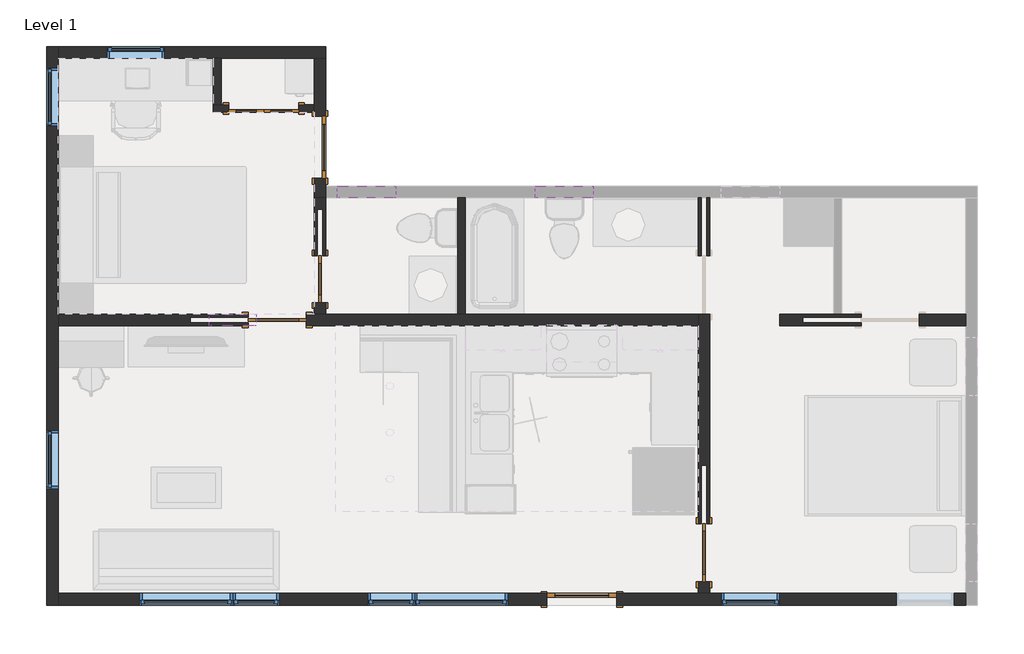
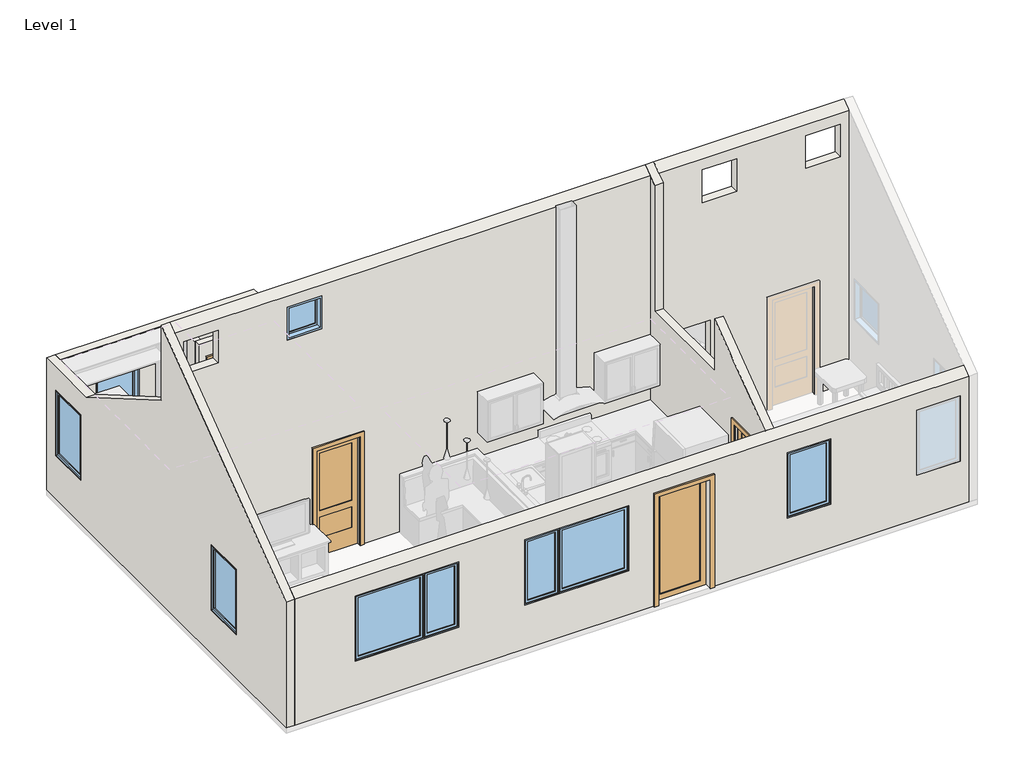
# One storey, part 1 of 2: 11 windows, 10 walls, 6 doors.
"""IFC4 building model written with IfcOpenShell, lengths in millimetres."""

from ifc_helpers import new_model, si_unit, origin, origin_with_axes, place, context, project, spatial, polyline, outline, extrude, faceted_brep, transform, mapped, element, save
from components import door_aa7f62d4, door_c1d14122, door_ddaeacfc, door_06826e7e, door_91ac008a, door_421592a3, window_ae901b66, window_c4c66847, window_aff1bc2a, window_ac770f06, window_e417f23f, window_e76804c0, window_7c4138b5, window_18dd6586

model = new_model("IFC4")

# Units and contexts
model_context = context("Model", 3, world=origin())
ifc_project = project(units=[si_unit("LENGTHUNIT", "METRE", prefix="MILLI")], contexts=[model_context])

# Site, building, storey
site = spatial("IfcSite", under=ifc_project)
building = spatial("IfcBuilding", under=site)
storey = spatial("IfcBuildingStorey", under=building, Name="Level 1", Elevation=0.0)

# Doors
placement = place(None, origin())
door_shape = door_aa7f62d4(model_context)
element("IfcDoor", 1, ObjectType="Bifold-2 Panel : 36\" x 84\"", at=placement, inside=storey, context=model_context, shape_type="MappedRepresentation", body=[
    mapped(door_shape, transform((-8028.0710901, -1528.8021683, 0.0), x_axis=(1.0, 0.0, 0.0), y_axis=(0.0, 1.0, 0.0), z_axis=(0.0, 0.0, 1.0))),
])
door_2_shape = door_c1d14122(model_context)
element("IfcDoor", 2, ObjectType="Single-Glass 1 : 32\" x 80\"", at=placement, inside=storey, context=model_context, shape_type="MappedRepresentation", body=[
    mapped(door_2_shape, transform((-7291.4710901, -2036.8021683, 0.0), x_axis=(0.0, -1.0, 0.0), y_axis=(1.0, 0.0, 0.0), z_axis=(0.0, 0.0, 1.0))),
])
door_3_shape = door_ddaeacfc(model_context)
element("IfcDoor", 3, ObjectType="Single-Glass 1 : 36\" x 80\"", at=placement, inside=storey, context=model_context, shape_type="MappedRepresentation", body=[
    mapped(door_3_shape, transform((-3862.4710901, -7955.0021683, 0.0), x_axis=(1.0, 0.0, 0.0), y_axis=(0.0, 1.0, 0.0), z_axis=(0.0, 0.0, 1.0))),
])
door_4_shape = door_06826e7e(model_context)
element("IfcDoor", 4, ObjectType="Single-Pocket Door-Two Panel : 24\" x 80\"", at=placement, inside=storey, context=model_context, shape_type="MappedRepresentation", body=[
    mapped(door_4_shape, transform((-7291.4710901, -3764.0021683, 0.0), x_axis=(0.0, -1.0, 0.0), y_axis=(1.0, 0.0, 0.0), z_axis=(0.0, 0.0, 1.0))),
])
door_5_shape = door_91ac008a(model_context)
element("IfcDoor", 5, ObjectType="Single-Pocket Door-Two Panel : 30\" x 80\"", at=placement, inside=storey, context=model_context, shape_type="MappedRepresentation", body=[
    mapped(door_5_shape, transform((-2262.2710901, -7345.4021683, 0.0), x_axis=(0.0, -1.0, 0.0), y_axis=(1.0, 0.0, 0.0), z_axis=(0.0, 0.0, 1.0))),
])
door_6_shape = door_421592a3(model_context)
element("IfcDoor", 6, ObjectType="Single-Pocket Door-Two Panel : 30\" x 80\"", at=placement, inside=storey, context=model_context, shape_type="MappedRepresentation", body=[
    mapped(door_6_shape, transform((-7850.2710901, -4297.4021683, 0.0), x_axis=(1.0, 0.0, 0.0), y_axis=(0.0, 1.0, 0.0), z_axis=(0.0, 0.0, 1.0))),
])

# Walls
element("IfcWall", 7, ObjectType="Generic - 4\"", at=placement, inside=storey, context=model_context, shape_type="SweptSolid", body=[
    extrude(outline(polyline([(-5488.0710901, -4221.2021683), (-5488.0710901, -2697.2021683), (-5386.4710901, -2697.2021683), (-5386.4710901, -4221.2021683), (-5488.0710901, -4221.2021683)])), origin_with_axes(), (0.0, 0.0, 1.0), 2438.4),
])
element("IfcWall", 8, ObjectType="Generic - 4\"", at=placement, inside=storey, context=model_context, shape_type="Brep", body=[
    faceted_brep([(-7570.8710901, -1579.6021683, 2133.6), (-7570.8710901, -1579.6021683, 0.0), (-7367.6710901, -1579.6021683, 0.0), (-7367.6710901, -1579.6021683, 2466.975), (-8688.4710901, -1579.6021683, 2466.975), (-8688.4710901, -1579.6021683, 0.0), (-8485.2710901, -1579.6021683, 0.0), (-8485.2710901, -1579.6021683, 2133.6), (-7367.6710901, -1478.0021683, 0.0), (-7570.8710901, -1478.0021683, 0.0), (-7570.8710901, -1478.0021683, 2133.6), (-8485.2710901, -1478.0021683, 2133.6), (-8485.2710901, -1478.0021683, 0.0), (-8586.8710901, -1478.0021683, 0.0), (-8688.4710901, -1478.0021683, 0.0), (-8688.4710901, -1478.0021683, 2454.275), (-8688.4710901, -1478.0021683, 2466.975), (-7367.6710901, -1478.0021683, 2466.975)], [[[0, 1, 2, 3, 4, 5, 6, 7]], [[8, 9, 10, 11, 12, 13, 14, 15, 16, 17]], [[6, 5, 14, 13, 12]], [[2, 1, 9, 8]], [[4, 3, 17, 16]], [[3, 2, 8, 17]], [[5, 4, 16, 15, 14]], [[10, 9, 1, 0]], [[11, 10, 0, 7]], [[12, 11, 7, 6]]]),
])
element("IfcWall", 9, ObjectType="Generic - 4\"", at=placement, inside=storey, context=model_context, shape_type="SweptSolid", body=[
    extrude(outline(polyline([(-8586.8710901, -868.4021683), (-8586.8710901, -1478.0021683), (-8688.4710901, -1478.0021683), (-8688.4710901, -868.4021683), (-8586.8710901, -868.4021683)])), origin_with_axes(), (0.0, 0.0, 1.0), 2454.275),
])
element("IfcWall", 10, ObjectType="Generic - 6\"", at=placement, inside=storey, context=model_context, shape_type="Brep", body=[
    faceted_brep([(-10720.4710901, -8031.2021683, 0.0), (-10720.4710901, -7878.8021683, 0.0), (-10720.4710901, -4373.6021683, 0.0), (-10720.4710901, -4221.2021683, 0.0), (-10720.4710901, -868.4021683, 0.0), (-10720.4710901, -716.0021683, 0.0), (-10720.4710901, -716.0021683, 2466.975), (-10720.4710901, -868.4021683, 2466.975), (-10720.4710901, -1933.3878826, 2466.975), (-10720.4710901, -4221.2021683, 3801.5333333), (-10720.4710901, -4221.2021683, 5200.65), (-10720.4710901, -4373.6021683, 5086.35), (-10720.4710901, -7878.8021683, 2457.45), (-10720.4710901, -8031.2021683, 2343.15), (-10720.4710901, -1757.4021683, 2032.0), (-10720.4710901, -995.4021683, 2032.0), (-10720.4710901, -995.4021683, 812.8), (-10720.4710901, -1757.4021683, 812.8), (-10720.4710901, -5745.2021683, 2032.0), (-10720.4710901, -5745.2021683, 812.8), (-10720.4710901, -6507.2021683, 812.8), (-10720.4710901, -6507.2021683, 2032.0), (-10872.8710901, -8031.2021683, 0.0), (-10872.8710901, -8031.2021683, 2343.15), (-10872.8710901, -4221.2021683, 5200.65), (-10872.8710901, -4221.2021683, 3801.5333333), (-10872.8710901, -1933.3878826, 2466.975), (-10872.8710901, -716.0021683, 2466.975), (-10872.8710901, -716.0021683, 0.0), (-10872.8710901, -1757.4021683, 2032.0), (-10872.8710901, -1757.4021683, 812.8), (-10872.8710901, -995.4021683, 812.8), (-10872.8710901, -995.4021683, 2032.0), (-10872.8710901, -5745.2021683, 2032.0), (-10872.8710901, -6507.2021683, 2032.0), (-10872.8710901, -6507.2021683, 812.8), (-10872.8710901, -5745.2021683, 812.8)], [[[0, 1, 2, 3, 4, 5, 6, 7, 8, 9, 10, 11, 12, 13], [14, 15, 16, 17], [18, 19, 20, 21]], [[22, 23, 24, 25, 26, 27, 28], [29, 30, 31, 32], [33, 34, 35, 36]], [[6, 5, 28, 27]], [[0, 13, 23, 22]], [[5, 4, 3, 2, 1, 0, 22, 28]], [[8, 7, 6, 27, 26]], [[13, 12, 11, 10, 24, 23]], [[9, 8, 26, 25]], [[10, 9, 25, 24]], [[30, 29, 14, 17]], [[31, 30, 17, 16]], [[32, 31, 16, 15]], [[29, 32, 15, 14]], [[19, 18, 33, 36]], [[20, 19, 36, 35]], [[21, 20, 35, 34]], [[18, 21, 34, 33]]]),
])
element("IfcWall", 11, ObjectType="Generic - 6\"", at=placement, inside=storey, context=model_context, shape_type="Brep", body=[
    faceted_brep([(-10720.4710901, -868.4021683, 0.0), (-8688.4710901, -868.4021683, 0.0), (-8586.8710901, -868.4021683, 0.0), (-7367.6710901, -868.4021683, 0.0), (-7215.2710901, -868.4021683, 0.0), (-7215.2710901, -868.4021683, 2466.975), (-7367.6710901, -868.4021683, 2466.975), (-10720.4710901, -868.4021683, 2466.975), (-9323.4710901, -868.4021683, 2032.0), (-9323.4710901, -868.4021683, 812.8), (-10085.4710901, -868.4021683, 812.8), (-10085.4710901, -868.4021683, 2032.0), (-10720.4710901, -716.0021683, 0.0), (-10720.4710901, -716.0021683, 2466.975), (-7215.2710901, -716.0021683, 2466.975), (-7215.2710901, -716.0021683, 0.0), (-9323.4710901, -716.0021683, 2032.0), (-10085.4710901, -716.0021683, 2032.0), (-10085.4710901, -716.0021683, 812.8), (-9323.4710901, -716.0021683, 812.8)], [[[0, 1, 2, 3, 4, 5, 6, 7], [8, 9, 10, 11]], [[12, 13, 14, 15], [16, 17, 18, 19]], [[4, 3, 2, 1, 0, 12, 15]], [[0, 7, 13, 12]], [[5, 4, 15, 14]], [[7, 6, 5, 14, 13]], [[9, 8, 16, 19]], [[10, 9, 19, 18]], [[11, 10, 18, 17]], [[8, 11, 17, 16]]]),
])
element("IfcWall", 12, ObjectType="Generic - 6\"", at=placement, inside=storey, context=model_context, shape_type="Brep", body=[
    faceted_brep([(-7367.6710901, -2443.2021683, 2032.0), (-7367.6710901, -2443.2021683, 0.0), (-7367.6710901, -2697.2021683, 0.0), (-7367.6710901, -2697.2021683, 2438.4), (-7367.6710901, -2697.2021683, 2981.325), (-7367.6710901, -2011.4021683, 2466.975), (-7367.6710901, -1579.6021683, 2466.975), (-7367.6710901, -1478.0021683, 2466.975), (-7367.6710901, -868.4021683, 2466.975), (-7367.6710901, -868.4021683, 0.0), (-7367.6710901, -1478.0021683, 0.0), (-7367.6710901, -1579.6021683, 0.0), (-7367.6710901, -1630.4021683, 0.0), (-7367.6710901, -1630.4021683, 2032.0), (-7215.2710901, -2697.2021683, 0.0), (-7215.2710901, -2544.8021683, 0.0), (-7215.2710901, -2443.2021683, 0.0), (-7215.2710901, -2443.2021683, 2032.0), (-7215.2710901, -1630.4021683, 2032.0), (-7215.2710901, -1630.4021683, 0.0), (-7215.2710901, -868.4021683, 0.0), (-7215.2710901, -868.4021683, 2466.975), (-7215.2710901, -2011.4021683, 2466.975), (-7215.2710901, -2697.2021683, 2981.325), (-7215.2710901, -2697.2021683, 2912.5333333), (-7215.2710901, -2697.2021683, 2438.4)], [[[0, 1, 2, 3, 4, 5, 6, 7, 8, 9, 10, 11, 12, 13]], [[14, 15, 16, 17, 18, 19, 20, 21, 22, 23, 24, 25]], [[9, 8, 21, 20]], [[2, 14, 25, 24, 23, 4, 3]], [[2, 1, 16, 15, 14]], [[12, 11, 10, 9, 20, 19]], [[8, 7, 6, 5, 22, 21]], [[5, 4, 23, 22]], [[17, 16, 1, 0]], [[18, 17, 0, 13]], [[19, 18, 13, 12]]]),
])
element("IfcWall", 13, ObjectType="Generic - 6\"", at=placement, inside=storey, context=model_context, shape_type="Brep", body=[
    faceted_brep([(-10720.4710901, -7878.8021683, 0.0), (-10720.4710901, -7878.8021683, 2457.45), (-2338.4710901, -7878.8021683, 2457.45), (-2186.0710901, -7878.8021683, 2457.45), (1166.7289099, -7878.8021683, 2457.45), (1166.7289099, -7878.8021683, 0.0), (-2186.0710901, -7878.8021683, 0.0), (-2338.4710901, -7878.8021683, 0.0), (-3405.2710901, -7878.8021683, 0.0), (-3405.2710901, -7878.8021683, 2032.0), (-4319.6710901, -7878.8021683, 2032.0), (-4319.6710901, -7878.8021683, 0.0), (-1271.6710901, -7878.8021683, 2032.0), (-2033.6710901, -7878.8021683, 2032.0), (-2033.6710901, -7878.8021683, 812.8), (-1271.6710901, -7878.8021683, 812.8), (-9653.6710901, -7878.8021683, 2032.0), (-9653.6710901, -7878.8021683, 812.8), (-7824.8710901, -7878.8021683, 812.8), (-7824.8710901, -7878.8021683, 2032.0), (-6662.8210901, -7878.8021683, 812.8), (-4834.0210901, -7878.8021683, 812.8), (-4834.0210901, -7878.8021683, 2032.0), (-6662.8210901, -7878.8021683, 2032.0), (252.3289099, -7878.8021683, 2032.0), (252.3289099, -7878.8021683, 812.8), (1014.3289099, -7878.8021683, 812.8), (1014.3289099, -7878.8021683, 2032.0), (-10720.4710901, -8031.2021683, 2343.15), (-10720.4710901, -8031.2021683, 0.0), (-4319.6710901, -8031.2021683, 0.0), (-4319.6710901, -8031.2021683, 2032.0), (-3405.2710901, -8031.2021683, 2032.0), (-3405.2710901, -8031.2021683, 0.0), (1166.7289099, -8031.2021683, 0.0), (1166.7289099, -8031.2021683, 2343.15), (-1271.6710901, -8031.2021683, 2032.0), (-1271.6710901, -8031.2021683, 812.8), (-2033.6710901, -8031.2021683, 812.8), (-2033.6710901, -8031.2021683, 2032.0), (-9653.6710901, -8031.2021683, 812.8), (-9653.6710901, -8031.2021683, 2032.0), (-7824.8710901, -8031.2021683, 2032.0), (-7824.8710901, -8031.2021683, 812.8), (-4834.0210901, -8031.2021683, 812.8), (-6662.8210901, -8031.2021683, 812.8), (-6662.8210901, -8031.2021683, 2032.0), (-4834.0210901, -8031.2021683, 2032.0), (252.3289099, -8031.2021683, 2032.0), (1014.3289099, -8031.2021683, 2032.0), (1014.3289099, -8031.2021683, 812.8), (252.3289099, -8031.2021683, 812.8)], [[[0, 1, 2, 3, 4, 5, 6, 7, 8, 9, 10, 11], [12, 13, 14, 15], [16, 17, 18, 19], [20, 21, 22, 23], [24, 25, 26, 27]], [[28, 29, 30, 31, 32, 33, 34, 35], [36, 37, 38, 39], [40, 41, 42, 43], [44, 45, 46, 47], [48, 49, 50, 51]], [[5, 34, 33, 8, 7, 6]], [[29, 0, 11, 30]], [[1, 0, 29, 28]], [[5, 4, 35, 34]], [[4, 3, 2, 1, 28, 35]], [[9, 8, 33, 32]], [[10, 9, 32, 31]], [[11, 10, 31, 30]], [[37, 36, 12, 15]], [[38, 37, 15, 14]], [[39, 38, 14, 13]], [[36, 39, 13, 12]], [[17, 16, 41, 40]], [[17, 40, 43, 18]], [[41, 16, 19, 42]], [[18, 43, 42, 19]], [[44, 21, 20, 45]], [[46, 45, 20, 23]], [[46, 23, 22, 47]], [[47, 22, 21, 44]], [[25, 24, 48, 51]], [[26, 25, 51, 50]], [[27, 26, 50, 49]], [[24, 27, 49, 48]]]),
])
element("IfcWall", 14, ObjectType="Generic - 6\"", at=placement, inside=storey, context=model_context, shape_type="Brep", body=[
    faceted_brep([(-2186.0710901, -2697.2021683, 2438.4), (-2186.0710901, -4221.2021683, 2438.4), (-2186.0710901, -4221.2021683, 5200.65), (-2186.0710901, -4373.6021683, 5086.35), (-2186.0710901, -4510.1271683, 4983.95625), (-2186.0710901, -4510.1271683, 2641.6), (-2186.0710901, -6338.9271683, 2641.6), (-2186.0710901, -6338.9271683, 3612.35625), (-2186.0710901, -7878.8021683, 2457.45), (-2186.0710901, -7878.8021683, 0.0), (-2186.0710901, -7726.4021683, 0.0), (-2186.0710901, -7726.4021683, 2032.0), (-2186.0710901, -6964.4021683, 2032.0), (-2186.0710901, -6964.4021683, 0.0), (-2186.0710901, -4221.2021683, 0.0), (-2186.0710901, -4221.2021683, 2032.0), (-2186.0710901, -3459.2021683, 2032.0), (-2186.0710901, -3459.2021683, 0.0), (-2186.0710901, -2697.2021683, 0.0), (-2338.4710901, -4221.2021683, 2438.4), (-2338.4710901, -2697.2021683, 2438.4), (-2338.4710901, -2697.2021683, 0.0), (-2338.4710901, -3459.2021683, 0.0), (-2338.4710901, -3459.2021683, 2032.0), (-2338.4710901, -4221.2021683, 2032.0), (-2338.4710901, -4221.2021683, 0.0), (-2338.4710901, -4373.6021683, 0.0), (-2338.4710901, -6964.4021683, 0.0), (-2338.4710901, -6964.4021683, 2032.0), (-2338.4710901, -7726.4021683, 2032.0), (-2338.4710901, -7726.4021683, 0.0), (-2338.4710901, -7878.8021683, 0.0), (-2338.4710901, -7878.8021683, 2457.45), (-2338.4710901, -6913.6021683, 3181.35), (-2338.4710901, -6812.0021683, 3257.55), (-2338.4710901, -6338.9271683, 3612.35625), (-2338.4710901, -6338.9271683, 2641.6), (-2338.4710901, -4510.1271683, 2641.6), (-2338.4710901, -4510.1271683, 4983.95625), (-2338.4710901, -4373.6021683, 5086.35), (-2338.4710901, -4221.2021683, 5200.65), (-2224.1710901, -2697.2021683, 0.0), (-2224.1710901, -2697.2021683, 2032.0), (-2300.3710901, -2697.2021683, 2032.0), (-2300.3710901, -2697.2021683, 0.0), (-2224.1710901, -6202.4021683, 2032.0), (-2224.1710901, -6964.4021683, 2032.0), (-2300.3710901, -6964.4021683, 2032.0), (-2300.3710901, -6202.4021683, 2032.0), (-2300.3710901, -6202.4021683, 0.0), (-2224.1710901, -6202.4021683, 0.0), (-2300.3710901, -6964.4021683, 0.0), (-2224.1710901, -6964.4021683, 0.0), (-2224.1710901, -3459.2021683, 2032.0), (-2300.3710901, -3459.2021683, 2032.0), (-2224.1710901, -3459.2021683, 0.0), (-2300.3710901, -3459.2021683, 0.0)], [[[0, 1, 2, 3, 4, 5, 6, 7, 8, 9, 10, 11, 12, 13, 14, 15, 16, 17, 18]], [[19, 20, 21, 22, 23, 24, 25, 26, 27, 28, 29, 30, 31, 32, 33, 34, 35, 36, 37, 38, 39, 40]], [[9, 8, 32, 31]], [[0, 18, 41, 42, 43, 44, 21, 20]], [[45, 46, 12, 11, 29, 28, 47, 48]], [[45, 48, 49, 50]], [[48, 47, 51, 49]], [[51, 47, 28, 27]], [[29, 11, 10, 30]], [[46, 52, 13, 12]], [[46, 45, 50, 52]], [[42, 53, 16, 15, 24, 23, 54, 43]], [[53, 42, 41, 55]], [[53, 55, 17, 16]], [[24, 15, 14, 25]], [[56, 54, 23, 22]], [[43, 54, 56, 44]], [[10, 9, 31, 30]], [[22, 21, 44, 56]], [[18, 17, 55, 41]], [[50, 49, 51, 27, 26, 25, 14, 13, 52]], [[1, 0, 20, 19]], [[2, 1, 19, 40]], [[8, 7, 35, 34, 33, 32]], [[4, 3, 2, 40, 39, 38]], [[5, 4, 38, 37]], [[6, 5, 37, 36]], [[7, 6, 36, 35]]]),
])
element("IfcWall", 15, ObjectType="Generic - 6\"", at=placement, inside=storey, context=model_context, shape_type="Brep", body=[
    faceted_brep([(-10720.4710901, -4373.6021683, 5086.35), (-10720.4710901, -4373.6021683, 0.0), (-8231.2710901, -4373.6021683, 0.0), (-8231.2710901, -4373.6021683, 2032.0), (-7469.2710901, -4373.6021683, 2032.0), (-7469.2710901, -4373.6021683, 0.0), (-2338.4710901, -4373.6021683, 0.0), (-2338.4710901, -4373.6021683, 5086.35), (-4148.2210901, -4373.6021683, 5086.35), (-4249.8210901, -4373.6021683, 5086.35), (-7088.2710901, -4373.6021683, 5086.35), (-7189.8710901, -4373.6021683, 5086.35), (-8129.6710901, -4373.6021683, 4876.8), (-8129.6710901, -4373.6021683, 4267.2), (-8739.2710901, -4373.6021683, 4267.2), (-8739.2710901, -4373.6021683, 4876.8), (-9958.4710901, -4373.6021683, 4876.8), (-9958.4710901, -4373.6021683, 4267.2), (-10568.0710901, -4373.6021683, 4267.2), (-10568.0710901, -4373.6021683, 4876.8), (-10720.4710901, -4221.2021683, 0.0), (-10720.4710901, -4221.2021683, 3801.5333333), (-10720.4710901, -4221.2021683, 5200.65), (-2338.4710901, -4221.2021683, 5200.65), (-2338.4710901, -4221.2021683, 2438.4), (-2338.4710901, -4221.2021683, 2032.0), (-2338.4710901, -4221.2021683, 0.0), (-5386.4710901, -4221.2021683, 0.0), (-5488.0710901, -4221.2021683, 0.0), (-7215.2710901, -4221.2021683, 0.0), (-7367.6710901, -4221.2021683, 0.0), (-7469.2710901, -4221.2021683, 0.0), (-7469.2710901, -4221.2021683, 2032.0), (-8231.2710901, -4221.2021683, 2032.0), (-8231.2710901, -4221.2021683, 0.0), (-8129.6710901, -4221.2021683, 4267.2), (-8129.6710901, -4221.2021683, 4876.8), (-8739.2710901, -4221.2021683, 4876.8), (-8739.2710901, -4221.2021683, 4267.2), (-9958.4710901, -4221.2021683, 4267.2), (-9958.4710901, -4221.2021683, 4876.8), (-10568.0710901, -4221.2021683, 4876.8), (-10568.0710901, -4221.2021683, 4267.2), (-8231.2710901, -4259.3021683, 0.0), (-8993.2710901, -4259.3021683, 0.0), (-8993.2710901, -4335.5021683, 0.0), (-8231.2710901, -4335.5021683, 0.0), (-8231.2710901, -4335.5021683, 2032.0), (-8993.2710901, -4335.5021683, 2032.0), (-8993.2710901, -4259.3021683, 2032.0), (-8231.2710901, -4259.3021683, 2032.0)], [[[0, 1, 2, 3, 4, 5, 6, 7, 8, 9, 10, 11], [12, 13, 14, 15], [16, 17, 18, 19]], [[20, 21, 22, 23, 24, 25, 26, 27, 28, 29, 30, 31, 32, 33, 34], [35, 36, 37, 38], [39, 40, 41, 42]], [[1, 20, 34, 43, 44, 45, 46, 2]], [[5, 31, 30, 29, 28, 27, 26, 6]], [[20, 1, 0, 22, 21]], [[47, 48, 49, 50, 33, 32, 4, 3]], [[49, 48, 45, 44]], [[50, 49, 44, 43]], [[50, 43, 34, 33]], [[5, 4, 32, 31]], [[46, 47, 3, 2]], [[48, 47, 46, 45]], [[13, 12, 36, 35]], [[14, 13, 35, 38]], [[15, 14, 38, 37]], [[12, 15, 37, 36]], [[17, 16, 40, 39]], [[18, 17, 39, 42]], [[19, 18, 42, 41]], [[16, 19, 41, 40]], [[22, 0, 11, 10, 9, 8, 7, 23]], [[6, 26, 25, 24, 23, 7]]]),
    faceted_brep([(1166.7289099, -4373.6021683, 0.0), (1166.7289099, -4373.6021683, 5086.35), (-2186.0710901, -4373.6021683, 5086.35), (-2186.0710901, -4373.6021683, 2032.0), (-1271.6710901, -4373.6021683, 2032.0), (-1271.6710901, -4373.6021683, 0.0), (-204.8710901, -4373.6021683, 0.0), (-204.8710901, -4373.6021683, 2032.0), (557.1289099, -4373.6021683, 2032.0), (557.1289099, -4373.6021683, 0.0), (-814.4710901, -4373.6021683, 4876.8), (-814.4710901, -4373.6021683, 4267.2), (-1424.0710901, -4373.6021683, 4267.2), (-1424.0710901, -4373.6021683, 4876.8), (1014.3289099, -4373.6021683, 4267.2), (404.7289099, -4373.6021683, 4267.2), (404.7289099, -4373.6021683, 4876.8), (1014.3289099, -4373.6021683, 4876.8), (1166.7289099, -4221.2021683, 5200.65), (1166.7289099, -4221.2021683, 3801.5333333), (1166.7289099, -4221.2021683, 0.0), (557.1289099, -4221.2021683, 0.0), (557.1289099, -4221.2021683, 2032.0), (-204.8710901, -4221.2021683, 2032.0), (-204.8710901, -4221.2021683, 0.0), (-458.8710901, -4221.2021683, 0.0), (-560.4710901, -4221.2021683, 0.0), (-1271.6710901, -4221.2021683, 0.0), (-1271.6710901, -4221.2021683, 2032.0), (-2186.0710901, -4221.2021683, 2032.0), (-2186.0710901, -4221.2021683, 2438.4), (-2186.0710901, -4221.2021683, 5200.65), (-814.4710901, -4221.2021683, 4267.2), (-814.4710901, -4221.2021683, 4876.8), (-1424.0710901, -4221.2021683, 4876.8), (-1424.0710901, -4221.2021683, 4267.2), (404.7289099, -4221.2021683, 4267.2), (1014.3289099, -4221.2021683, 4267.2), (1014.3289099, -4221.2021683, 4876.8), (404.7289099, -4221.2021683, 4876.8), (-966.8710901, -4259.3021683, 0.0), (-966.8710901, -4335.5021683, 0.0), (-204.8710901, -4335.5021683, 0.0), (-204.8710901, -4259.3021683, 0.0), (-966.8710901, -4259.3021683, 2032.0), (-204.8710901, -4259.3021683, 2032.0), (-204.8710901, -4335.5021683, 2032.0), (-966.8710901, -4335.5021683, 2032.0)], [[[0, 1, 2, 3, 4, 5, 6, 7, 8, 9], [10, 11, 12, 13], [14, 15, 16, 17]], [[18, 19, 20, 21, 22, 23, 24, 25, 26, 27, 28, 29, 30, 31], [32, 33, 34, 35], [36, 37, 38, 39]], [[20, 0, 9, 21]], [[40, 41, 42, 6, 5, 27, 26, 25, 24, 43]], [[3, 2, 31, 30, 29]], [[1, 0, 20, 19, 18]], [[44, 45, 23, 22, 8, 7, 46, 47]], [[44, 47, 41, 40]], [[47, 46, 42, 41]], [[42, 46, 7, 6]], [[8, 22, 21, 9]], [[45, 43, 24, 23]], [[45, 44, 40, 43]], [[11, 10, 33, 32]], [[12, 11, 32, 35]], [[13, 12, 35, 34]], [[10, 13, 34, 33]], [[36, 15, 14, 37]], [[15, 36, 39, 16]], [[16, 39, 38, 17]], [[1, 18, 31, 2]], [[37, 14, 17, 38]], [[28, 4, 3, 29]], [[4, 28, 27, 5]]]),
])
element("IfcWall", 16, ObjectType="Generic - 6\"", at=placement, inside=storey, context=model_context, shape_type="Brep", body=[
    faceted_brep([(-7367.6710901, -4221.2021683, 2438.4), (-7367.6710901, -2697.2021683, 2438.4), (-7367.6710901, -2697.2021683, 0.0), (-7367.6710901, -3459.2021683, 0.0), (-7367.6710901, -3459.2021683, 2032.0), (-7367.6710901, -4068.8021683, 2032.0), (-7367.6710901, -4068.8021683, 0.0), (-7367.6710901, -4221.2021683, 0.0), (-7215.2710901, -2697.2021683, 2438.4), (-7215.2710901, -4221.2021683, 2438.4), (-7215.2710901, -4221.2021683, 0.0), (-7215.2710901, -4068.8021683, 0.0), (-7215.2710901, -4068.8021683, 2032.0), (-7215.2710901, -3459.2021683, 2032.0), (-7215.2710901, -3459.2021683, 0.0), (-7215.2710901, -2697.2021683, 0.0), (-7253.3710901, -3459.2021683, 0.0), (-7253.3710901, -2849.6021683, 0.0), (-7329.5710901, -2849.6021683, 0.0), (-7329.5710901, -3459.2021683, 0.0), (-7253.3710901, -2849.6021683, 2032.0), (-7253.3710901, -3459.2021683, 2032.0), (-7329.5710901, -3459.2021683, 2032.0), (-7329.5710901, -2849.6021683, 2032.0)], [[[0, 1, 2, 3, 4, 5, 6, 7]], [[8, 9, 10, 11, 12, 13, 14, 15]], [[2, 15, 14, 16, 17, 18, 19, 3]], [[10, 7, 6, 11]], [[1, 0, 9, 8]], [[2, 1, 8, 15]], [[0, 7, 10, 9]], [[20, 21, 13, 12, 5, 4, 22, 23]], [[20, 23, 18, 17]], [[23, 22, 19, 18]], [[19, 22, 4, 3]], [[5, 12, 11, 6]], [[21, 16, 14, 13]], [[21, 20, 17, 16]]]),
])

# Windows
window_shape = window_ae901b66(model_context)
element("IfcWindow", 17, ObjectType="Casement : 36\" x 48\"", at=placement, inside=storey, context=model_context, shape_type="MappedRepresentation", body=[
    mapped(window_shape, transform((-9044.0710901, -7955.0021683, -101.6), x_axis=(-1.0, 0.0, 0.0), y_axis=(0.0, -1.0, 0.0), z_axis=(0.0, 0.0, 1.0))),
])
window_2_shape = window_c4c66847(model_context)
element("IfcWindow", 18, ObjectType="Casement : 36\" x 48\"", at=placement, inside=storey, context=model_context, shape_type="MappedRepresentation", body=[
    mapped(window_2_shape, transform((-5443.6210901, -7955.0021683, -101.6), x_axis=(1.0, 0.0, 0.0), y_axis=(0.0, 1.0, 0.0), z_axis=(0.0, 0.0, 1.0))),
])
window_3_shape = window_aff1bc2a(model_context)
element("IfcWindow", 19, ObjectType="Fixed : 24\" x 24\"", at=placement, inside=storey, context=model_context, shape_type="MappedRepresentation", body=[
    mapped(window_3_shape, transform((-8396.3710901, -4297.4021683, 3352.8), x_axis=(1.0, 0.0, 0.0), y_axis=(0.0, 1.0, 0.0), z_axis=(0.0, 0.0, 1.0))),
])
window_4_shape = window_ac770f06(model_context)
element("IfcWindow", 20, ObjectType="Fixed : 24\" x 48\"", at=placement, inside=storey, context=model_context, shape_type="MappedRepresentation", body=[
    mapped(window_4_shape, transform((-8167.7710901, -7955.0021683, -101.6), x_axis=(-1.0, 0.0, 0.0), y_axis=(0.0, -1.0, 0.0), z_axis=(0.0, 0.0, 1.0))),
])
window_5_shape = window_e417f23f(model_context)
element("IfcWindow", 21, ObjectType="Fixed : 24\" x 48\"", at=placement, inside=storey, context=model_context, shape_type="MappedRepresentation", body=[
    mapped(window_5_shape, transform((-6319.9210901, -7955.0021683, -101.6), x_axis=(1.0, 0.0, 0.0), y_axis=(0.0, 1.0, 0.0), z_axis=(0.0, 0.0, 1.0))),
])
window_6_shape = window_e76804c0(model_context)
element("IfcWindow", 22, ObjectType="Fixed : 30\" x 30\"", at=placement, inside=storey, context=model_context, shape_type="MappedRepresentation", body=[
    mapped(window_6_shape, transform((-6643.7710901, -2621.0021683, 609.6), x_axis=(1.0, 0.0, 0.0), y_axis=(0.0, 1.0, 0.0), z_axis=(0.0, 0.0, 1.0))),
])
element("IfcWindow", 23, ObjectType="Fixed : 30\" x 30\"", at=placement, inside=storey, context=model_context, shape_type="MappedRepresentation", body=[
    mapped(window_6_shape, transform((-4052.9710901, -2621.0021683, 508.0), x_axis=(1.0, 0.0, 0.0), y_axis=(0.0, 1.0, 0.0), z_axis=(0.0, 0.0, 1.0))),
])
window_7_shape = window_7c4138b5(model_context)
element("IfcWindow", 24, ObjectType="Fixed : 30\" x 48\"", at=placement, inside=storey, context=model_context, shape_type="MappedRepresentation", body=[
    mapped(window_7_shape, transform((-10796.6710901, -6088.1021683, 50.8), x_axis=(0.0, 1.0, 0.0), y_axis=(-1.0, 0.0, 0.0), z_axis=(0.0, 0.0, 1.0))),
])
element("IfcWindow", 25, ObjectType="Fixed : 30\" x 48\"", at=placement, inside=storey, context=model_context, shape_type="MappedRepresentation", body=[
    mapped(window_7_shape, transform((-9666.3710901, -792.2021683, 50.8), x_axis=(1.0, 0.0, 0.0), y_axis=(0.0, 1.0, 0.0), z_axis=(0.0, 0.0, 1.0))),
])
window_8_shape = window_18dd6586(model_context)
element("IfcWindow", 26, ObjectType="Fixed : 30\" x 48\"", at=placement, inside=storey, context=model_context, shape_type="MappedRepresentation", body=[
    mapped(window_8_shape, transform((-10796.6710901, -1414.5021683, 50.8), x_axis=(0.0, -1.0, 0.0), y_axis=(1.0, 0.0, 0.0), z_axis=(0.0, 0.0, 1.0))),
])
element("IfcWindow", 27, ObjectType="Fixed : 30\" x 48\"", at=placement, inside=storey, context=model_context, shape_type="MappedRepresentation", body=[
    mapped(window_8_shape, transform((-1614.5710901, -7955.0021683, 50.8), x_axis=(1.0, 0.0, 0.0), y_axis=(0.0, 1.0, 0.0), z_axis=(0.0, 0.0, 1.0))),
])

save(model, "model.ifc")
